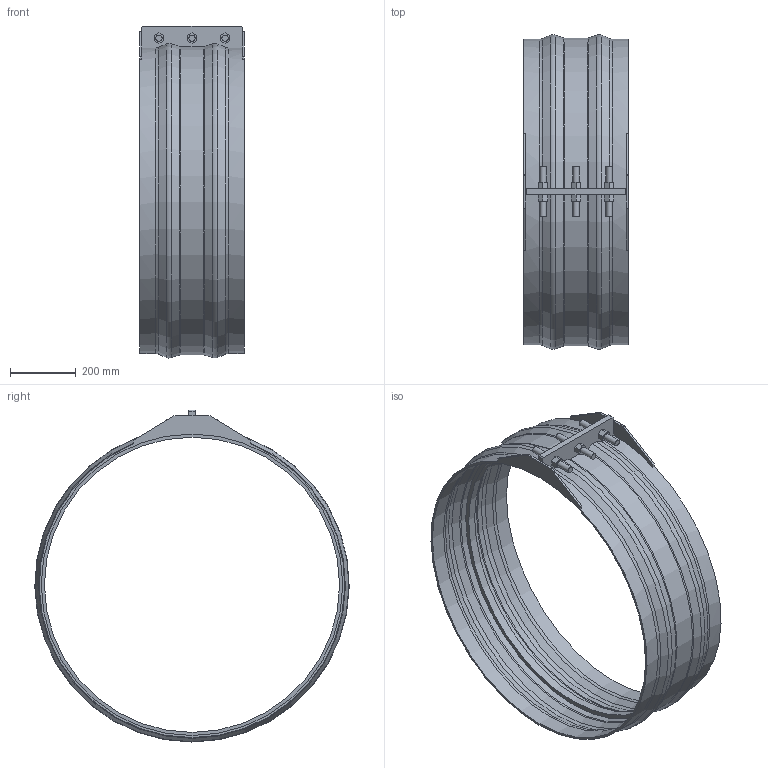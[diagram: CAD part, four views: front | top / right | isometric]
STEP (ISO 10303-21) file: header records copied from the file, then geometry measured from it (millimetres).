
FILE_DESCRIPTION(/* description */ ('VIC SS RESTRAINED COUPLING STYLE 233S (FLEX) (BRD)','CAx-IF Rec.Pracs.---Representation and Presentation of Product Manufacturing Information (PMI)---4.0---2014-10-13'),/* implementation_level */ '2;1');
FILE_NAME(/* name */ 'C:\Users\kkamble\AppData\Roaming\Autodesk\ApplicationPlugins\Back Up\Victaulic_VBSP_Coupling Flexible Restrained_Style 233S (BRD)\Victaulic_VBSP_Coupling Flexible Restrained_Style 233S (BRD)_150psi_36 (900).stp',/* time_stamp */ '2020-09-22T18:29:25+06:00',/* author */ ('Vjadhav'),/* organization */ ('Victaulic'),/* preprocessor_version */ 'ST-DEVELOPER v17.2',/* originating_system */ 'Autodesk Inventor 2019',/* authorisation */ '');
FILE_SCHEMA (('AP242_MANAGED_MODEL_BASED_3D_ENGINEERING_MIM_LF { 1 0 10303 442 1 1 4 }'));
Length unit declared in the file: inch
Products named in the file (1): Style_233S_Type_2_150psi-36.0
Bounding box: 317.5 x 953.74 x 1007.12 mm (x, y, z)
Volume: 7610077 mm3; surface area: 2122192.2 mm2
Topology: 1 solids, 1 shells, 115 faces, 309 edges, 210 vertices
Faces by surface type: plane 73, cylinder 22, torus 12, cone 8
Full cylindrical faces by diameter (mm): 19.05 x6, 895.35 x1, 914.4 x2, 920.75 x2
Entity records: 3970 total; most frequent: CARTESIAN_POINT 764, DIRECTION 645, ORIENTED_EDGE 618, EDGE_CURVE 309, AXIS2_PLACEMENT_3D 227, VERTEX_POINT 210, LINE 191, VECTOR 191
